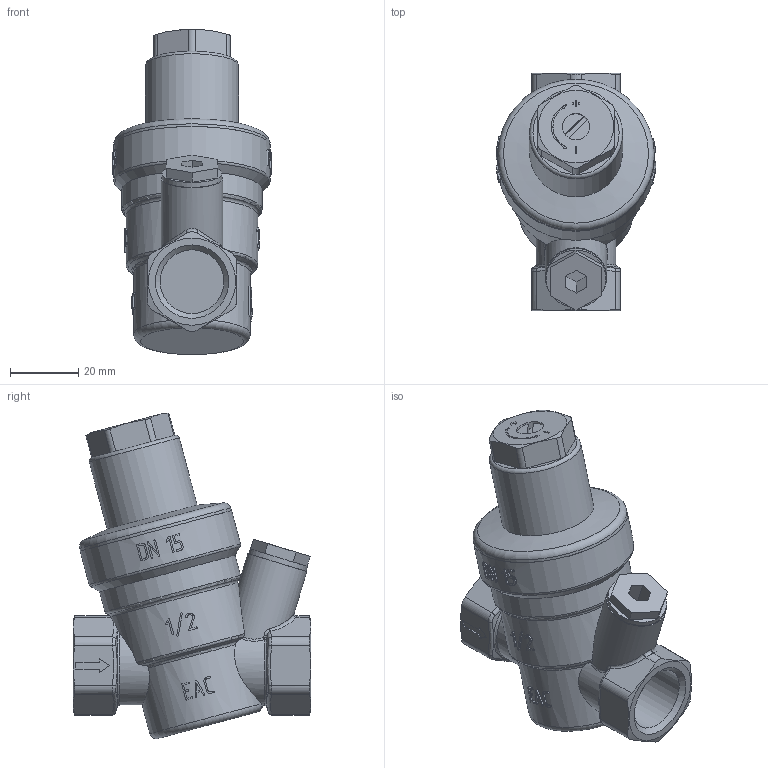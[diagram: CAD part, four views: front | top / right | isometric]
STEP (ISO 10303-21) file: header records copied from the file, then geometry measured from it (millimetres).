
FILE_DESCRIPTION(('STEP AP203'), '1');
FILE_NAME('VT.089.N.04 Ðåäóêòîð äàâëåíèÿ ìåìáðàííûé ðåãóëèðóåìûé DN15', '2023-06-23T11:36:04', ('IT'), ('VESTA'), 'C3D Converter', 'C3D Toolkit', '');
FILE_SCHEMA(('CONFIG_CONTROL_DESIGN'));
Length unit declared in the file: millimetre
Bounding box: 46.77 x 69.5 x 95.09 mm (x, y, z)
Volume: 107182.4 mm3; surface area: 19001.8 mm2
Topology: 1 solids, 1 shells, 578 faces, 1573 edges, 1033 vertices
Faces by surface type: extrusion 237, plane 224, cylinder 58, bspline 36, torus 12, cone 11
Full cylindrical faces by diameter (mm): 8 x1, 17.5 x1, 18 x1, 18.632 x2, 27.2 x1, 41 x1, 45.7 x1, 45.8 x1
Entity records: 35168 total; most frequent: CARTESIAN_POINT 17571, ORIENTED_EDGE 3104, DIRECTION 1791, EDGE_CURVE 1552, VERTEX_POINT 1033, VECTOR 899, B_SPLINE_CURVE_WITH_KNOTS 881, LINE 662
